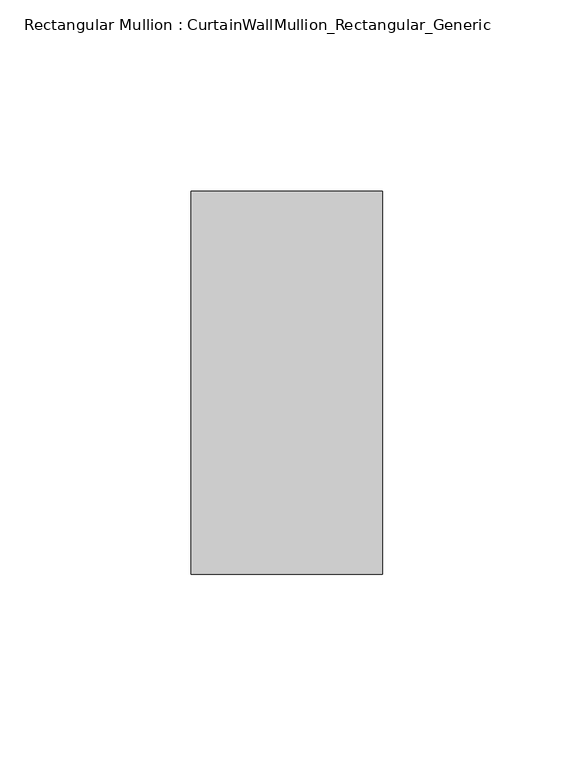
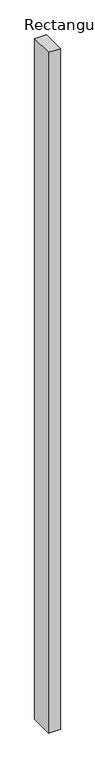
"""IFC4 building model written with IfcOpenShell, lengths in millimetres: member geometry, Rectangular Mullion : CurtainWallMullion_Rectangular_Generic."""

from ifc_helpers import new_model, si_unit, frame, origin, place, context, project, spatial, polyline, outline, extrude, source, transform, mapped, element, save


def rectangular_mullion_curtainwallmullion_rectangular_generic_adcf4dab(model_context):
    return source(origin(), model_context, "Body", "SweptSolid", [
        extrude(outline(polyline([(0.0, 50.0), (0.0, -50.0), (-50.0, -50.0), (-50.0, 50.0), (0.0, 50.0)])), frame((0.0, 0.0, -3025.0), z_axis=(0.0, 0.0, 1.0), x_axis=(1.0, 0.0, 0.0)), (0.0, 0.0, 1.0), 3025.0),
    ])


if __name__ == "__main__":
    model = new_model("IFC4")
    model_context = context("Model", 3, world=origin())
    ifc_project = project(units=[si_unit("LENGTHUNIT", "METRE", prefix="MILLI")], contexts=[model_context])
    site = spatial("IfcSite", under=ifc_project)
    building = spatial("IfcBuilding", under=site)
    placement = place(None, origin())
    rectangular_mullion_curtainwallmullion_rectangular_generic_shape = rectangular_mullion_curtainwallmullion_rectangular_generic_adcf4dab(model_context)
    element("IfcMember", 1, ObjectType="Rectangular Mullion : CurtainWallMullion_Rectangular_Generic", at=placement, inside=building, context=model_context, shape_type="MappedRepresentation", body=[
        mapped(rectangular_mullion_curtainwallmullion_rectangular_generic_shape, transform((0.0, 0.0, 0.0), x_axis=(1.0, 0.0, 0.0), y_axis=(0.0, 1.0, 0.0), z_axis=(0.0, 0.0, 1.0))),
    ])
    save(model, "model.ifc")
